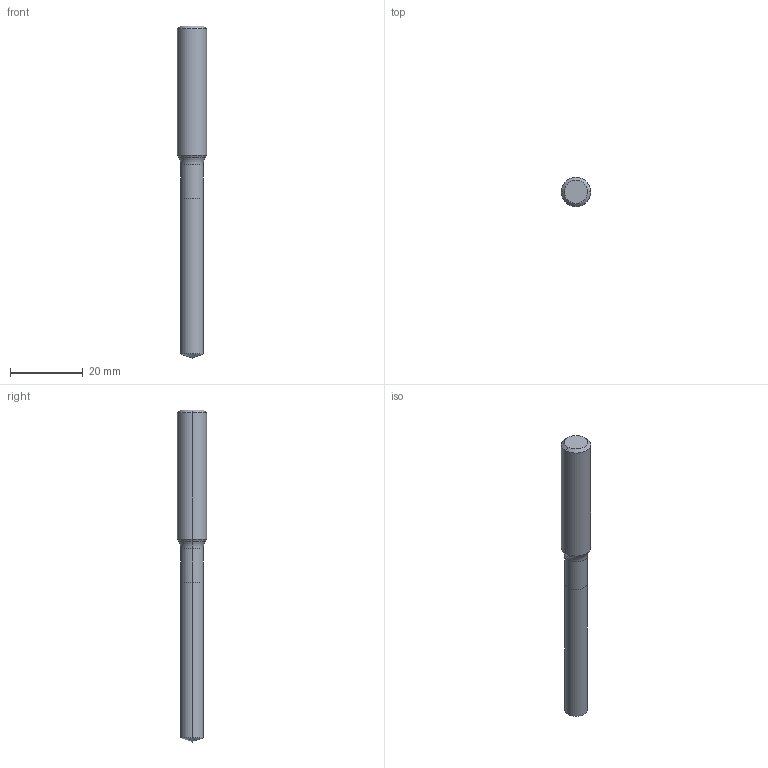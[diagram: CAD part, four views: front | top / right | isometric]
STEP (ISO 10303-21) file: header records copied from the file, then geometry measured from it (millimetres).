
FILE_DESCRIPTION (( 'STEP AP214' ), '1' );
FILE_NAME ('905.062.00_3D-model.step', '2022-02-24T17:42:14', ( '' ), ( '' ), 'SwSTEP 2.0', 'SolidWorks 2020', '' );
FILE_SCHEMA (( 'AUTOMOTIVE_DESIGN' ));
Length unit declared in the file: millimetre
Products named in the file (3): CUT-3D^Baugr48; NOCUT-3D^Baugr48; 905.062.00_3D-model
Assembly tree (2 placements, depth 2):
  905.062.00_3D-model
    CUT-3D^Baugr48
    NOCUT-3D^Baugr48
Bounding box: 8 x 8 x 91 mm (x, y, z)
Volume: 3444.1 mm3; surface area: 2090.1 mm2
Topology: 2 solids, 2 shells, 17 faces, 32 edges, 17 vertices
Faces by surface type: cone 6, cylinder 6, plane 3, torus 2
Entity records: 532 total; most frequent: DIRECTION 98, CARTESIAN_POINT 72, ORIENTED_EDGE 60, AXIS2_PLACEMENT_3D 43, EDGE_CURVE 30, CIRCLE 18, ADVANCED_FACE 17, VERTEX_POINT 17
